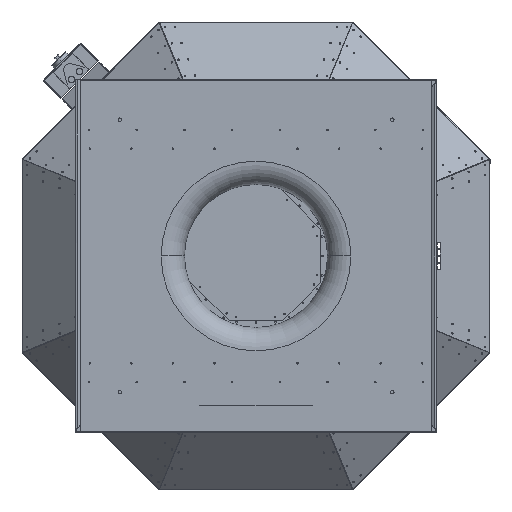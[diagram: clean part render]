
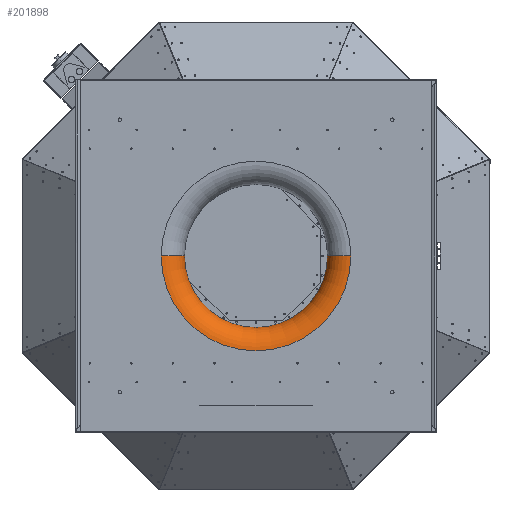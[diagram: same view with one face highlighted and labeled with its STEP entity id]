
A CAD part, front view. The second image highlights one B-rep face of the part: STEP entity #201898.
In plain terms, the highlighted toroidal (fillet/blend) face has major radius 292.5 mm and minor radius 72 mm.
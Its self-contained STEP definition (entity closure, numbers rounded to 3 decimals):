
#3004 = ORIENTED_EDGE ( 'NONE', *, *, #108138, .F. ) ;
#9568 = AXIS2_PLACEMENT_3D ( 'NONE', #29595, #159924, #48305 ) ;
#9657 = CARTESIAN_POINT ( 'NONE',  ( 220.5, 71., 0. ) ) ;
#10561 = ORIENTED_EDGE ( 'NONE', *, *, #126595, .T. ) ;
#16951 = CIRCLE ( 'NONE', #9568, 292.5 ) ;
#22309 = EDGE_CURVE ( 'NONE', #226451, #156894, #35929, .T. ) ;
#29547 = DIRECTION ( 'NONE',  ( 0., -1., 0. ) ) ;
#29595 = CARTESIAN_POINT ( 'NONE',  ( 0., -1., 0. ) ) ;
#30156 = VERTEX_POINT ( 'NONE', #106210 ) ;
#31577 = CARTESIAN_POINT ( 'NONE',  ( 292.5, -1., 0. ) ) ;
#35929 = CIRCLE ( 'NONE', #208871, 72. ) ;
#48305 = DIRECTION ( 'NONE',  ( -1., 0., 0. ) ) ;
#60893 = CARTESIAN_POINT ( 'NONE',  ( 292.5, 71., 0. ) ) ;
#68483 = CIRCLE ( 'NONE', #109080, 72. ) ;
#79575 = DIRECTION ( 'NONE',  ( 0., 0., -1. ) ) ;
#90071 = ORIENTED_EDGE ( 'NONE', *, *, #122173, .F. ) ;
#98245 = DIRECTION ( 'NONE',  ( 0., 1., 0. ) ) ;
#101624 = CARTESIAN_POINT ( 'NONE',  ( -292.5, 71., 0. ) ) ;
#106210 = CARTESIAN_POINT ( 'NONE',  ( -292.5, -1., 0. ) ) ;
#108138 = EDGE_CURVE ( 'NONE', #142409, #156894, #142655, .T. ) ;
#109080 = AXIS2_PLACEMENT_3D ( 'NONE', #101624, #232013, #120370 ) ;
#114718 = FACE_OUTER_BOUND ( 'NONE', #122167, .T. ) ;
#120370 = DIRECTION ( 'NONE',  ( 0., -1., 0. ) ) ;
#122167 = EDGE_LOOP ( 'NONE', ( #10561, #236660, #3004, #90071 ) ) ;
#122173 = EDGE_CURVE ( 'NONE', #30156, #142409, #68483, .T. ) ;
#124102 = AXIS2_PLACEMENT_3D ( 'NONE', #155146, #137235, #155954 ) ;
#126595 = EDGE_CURVE ( 'NONE', #30156, #226451, #16951, .T. ) ;
#137235 = DIRECTION ( 'NONE',  ( 0., -1., 0. ) ) ;
#141164 = CARTESIAN_POINT ( 'NONE',  ( 0., 71., 0. ) ) ;
#142409 = VERTEX_POINT ( 'NONE', #199214 ) ;
#142655 = CIRCLE ( 'NONE', #157434, 220.5 ) ;
#155146 = CARTESIAN_POINT ( 'NONE',  ( 0., 71., 0. ) ) ;
#155954 = DIRECTION ( 'NONE',  ( -1., 0., 0. ) ) ;
#156894 = VERTEX_POINT ( 'NONE', #9657 ) ;
#157434 = AXIS2_PLACEMENT_3D ( 'NONE', #141164, #29547, #159875 ) ;
#159875 = DIRECTION ( 'NONE',  ( -1., 0., 0. ) ) ;
#159924 = DIRECTION ( 'NONE',  ( 0., -1., 0. ) ) ;
#199214 = CARTESIAN_POINT ( 'NONE',  ( -220.5, 71., 0. ) ) ;
#201898 = ADVANCED_FACE ( 'NONE', ( #114718 ), #208018, .T. ) ;
#208018 = TOROIDAL_SURFACE ( 'NONE', #124102, 292.5, 72. ) ;
#208871 = AXIS2_PLACEMENT_3D ( 'NONE', #60893, #79575, #98245 ) ;
#226451 = VERTEX_POINT ( 'NONE', #31577 ) ;
#232013 = DIRECTION ( 'NONE',  ( 0., 0., 1. ) ) ;
#236660 = ORIENTED_EDGE ( 'NONE', *, *, #22309, .T. ) ;
